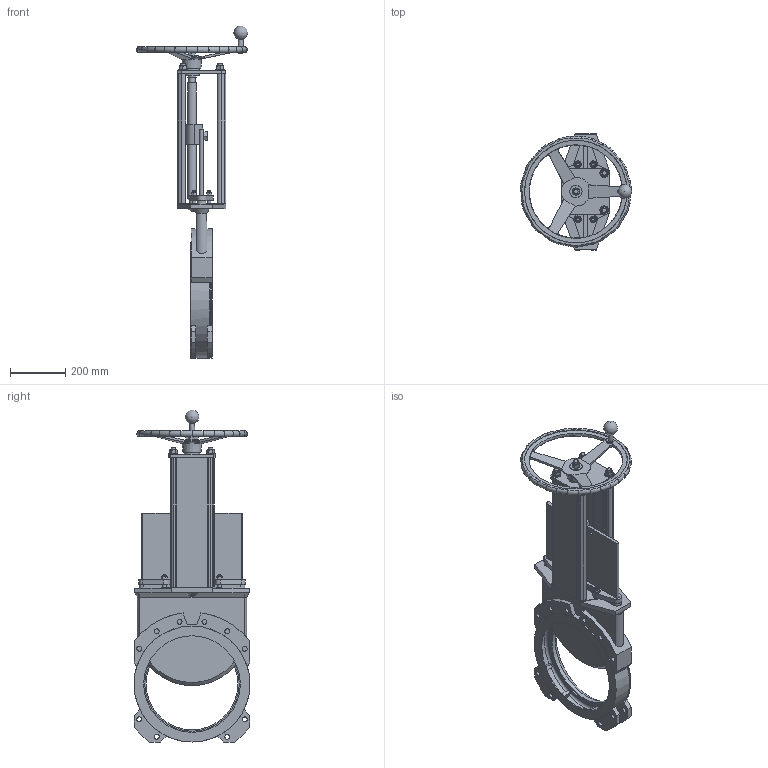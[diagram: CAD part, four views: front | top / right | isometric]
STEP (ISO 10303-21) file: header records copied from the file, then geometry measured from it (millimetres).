
FILE_DESCRIPTION(('STEP AP203'),'1');
FILE_NAME('G:/KONSTRUK/3-d block för CD/MV VALVE/HAND WHEEL/MV350-PN10-HW.stp','2011-09-12T14:25:11',(' '),(' '),'Spatial InterOp 3D',' ',' ');
FILE_SCHEMA(('CONFIG_CONTROL_DESIGN'));
Length unit declared in the file: metre
Products named in the file (1): 1
Bounding box: 402.79 x 420 x 1202.99 mm (x, y, z)
Volume: 11850291.8 mm3; surface area: 2299498.4 mm2
Topology: 1 solids, 17 shells, 964 faces, 2421 edges, 1562 vertices
Faces by surface type: plane 499, cylinder 224, cone 197, torus 37, bspline 6, sphere 1
Full cylindrical faces by diameter (mm): 6.75 x4, 10.25 x4, 12 x10, 12.793 x4, 13 x2, 15 x4, 16 x7, 16.818 x5, 17 x4, 17.5 x21, 18 x1, 20 x1, 21.582 x1, 24 x5, 25 x1, 28 x1, 31.5 x3, 31.875 x4, 32.4 x1, 32.5 x1, 33.5 x1, 35.639 x1, 44.7 x1, 55 x2, 332 x1, 342 x2, 350 x1, 358 x2, 371.391 x1, 376 x3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
Entity records: 31113 total; most frequent: CARTESIAN_POINT 8957, DIRECTION 4639, ORIENTED_EDGE 4348, EDGE_CURVE 2174, AXIS2_PLACEMENT_3D 1857, VERTEX_POINT 1487, EDGE_LOOP 1273, FACE_OUTER_BOUND 1069
